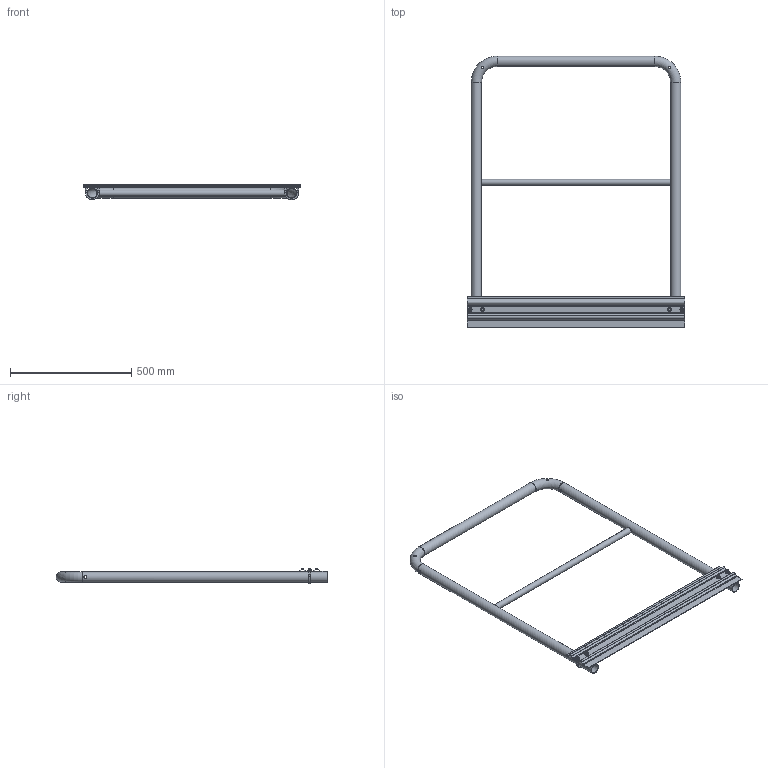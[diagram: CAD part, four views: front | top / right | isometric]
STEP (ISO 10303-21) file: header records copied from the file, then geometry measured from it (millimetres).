
FILE_DESCRIPTION((''),'2;1');
FILE_NAME('F:\STANDARD\Räcken\STEP\modul_ind_slist_900-1100.stp','2010-10-06T11:48:59',('AndreasA'),(''),'Autodesk Inventor 2011','Autodesk Inventor 2011','');
FILE_SCHEMA(('AUTOMOTIVE_DESIGN { 1 0 10303 214 1 1 1 1 }'));
Length unit declared in the file: millimetre
Products named in the file (9): modul_ind_slist_900-1100; modul_ind_900-1100; handledare_modul_900-1100; mellanliggare_modul_900; sparklist_k130_modul_900; bygelskruv_U42_kpl; bygelskruv_U42; SS 3576 8; ISO 4032 M8
Assembly tree (11 placements, depth 3):
  modul_ind_slist_900-1100
    modul_ind_900-1100
      handledare_modul_900-1100
      mellanliggare_modul_900
    sparklist_k130_modul_900
    bygelskruv_U42_kpl  x2
      bygelskruv_U42
      SS 3576 8
      ISO 4032 M8
Bounding box: 896 x 1121.2 x 64.95 mm (x, y, z)
Volume: 1202873.6 mm3; surface area: 1139132.5 mm2
Topology: 13 solids, 13 shells, 148 faces, 350 edges, 224 vertices
Faces by surface type: plane 66, cylinder 52, cone 24, torus 6
Full cylindrical faces by diameter (mm): 6.647 x4, 7 x4, 8 x4, 8.4 x4, 10 x4, 11 x8, 16 x4, 21 x1, 25 x1, 38.4 x3, 42.4 x3
Entity records: 3275 total; most frequent: CARTESIAN_POINT 1136, DIRECTION 414, ORIENTED_EDGE 324, AXIS2_PLACEMENT_3D 174, EDGE_CURVE 162, EDGE_LOOP 158, VERTEX_POINT 128, FACE_OUTER_BOUND 86
